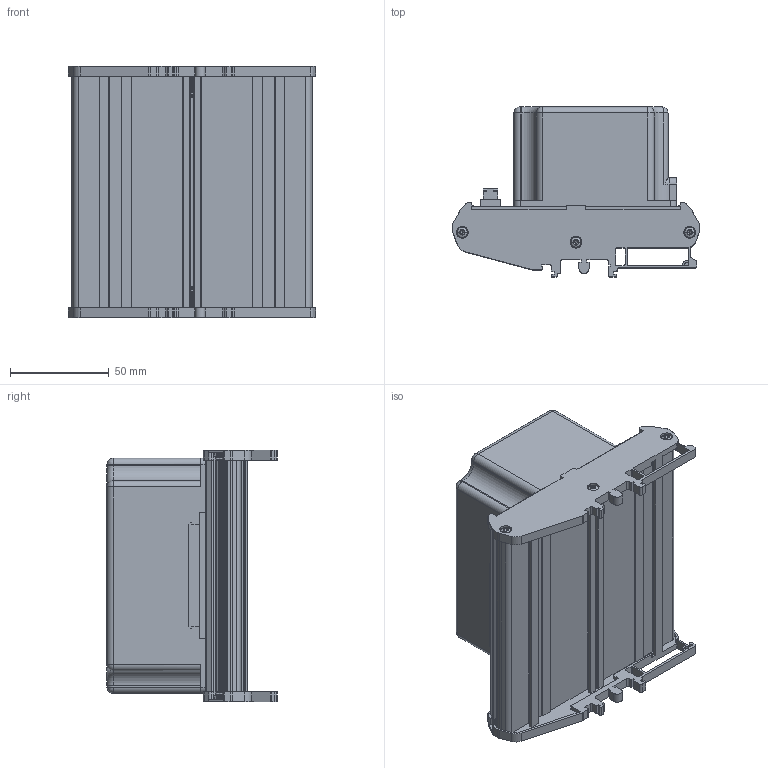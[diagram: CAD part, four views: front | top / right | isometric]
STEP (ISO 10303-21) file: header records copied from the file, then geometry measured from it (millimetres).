
FILE_DESCRIPTION((''),'2;1');
FILE_NAME('CD_TBX-68S','2008-03-18T',('scarrasc'),(''),'PRO/ENGINEER BY PARAMETRIC TECHNOLOGY CORPORATION, 2006080','PRO/ENGINEER BY PARAMETRIC TECHNOLOGY CORPORATION, 2006080','');
FILE_SCHEMA(('CONFIG_CONTROL_DESIGN'));
Length unit declared in the file: inch
Products named in the file (1): CD_TBX-68S
Bounding box: 125.4 x 86.37 x 127.5 mm (x, y, z)
Volume: 144620.4 mm3; surface area: 147349.6 mm2
Topology: 1 solids, 2 shells, 1601 faces, 4322 edges, 2732 vertices
Faces by surface type: plane 776, cylinder 565, cone 196, torus 36, sphere 28
Entity records: 51207 total; most frequent: CARTESIAN_POINT 10373, DIRECTION 8686, ORIENTED_EDGE 8596, EDGE_CURVE 4298, AXIS2_PLACEMENT_3D 3022, VERTEX_POINT 2732, VECTOR 2642, LINE 2642
